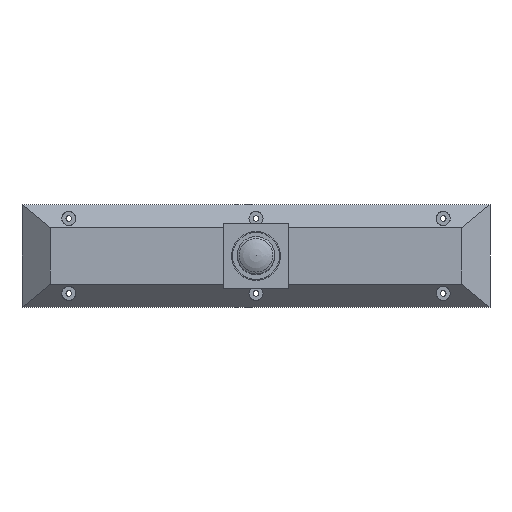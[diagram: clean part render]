
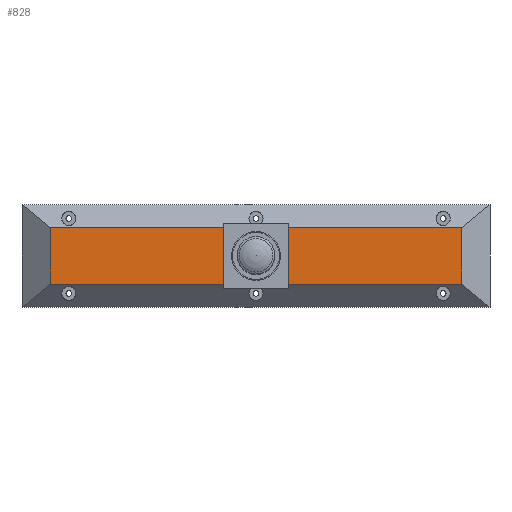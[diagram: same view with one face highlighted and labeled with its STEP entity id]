
A CAD part, top view. The second image highlights one B-rep face of the part: STEP entity #828.
In plain terms, the highlighted planar face has unit normal (0, 0, 1).
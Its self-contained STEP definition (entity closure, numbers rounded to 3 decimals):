
#32 = VERTEX_POINT('',#33);
#33 = CARTESIAN_POINT('',(440.,60.,50.));
#38 = EDGE_CURVE('',#39,#32,#41,.T.);
#39 = VERTEX_POINT('',#40);
#40 = CARTESIAN_POINT('',(440.,-60.,50.));
#41 = LINE('',#42,#43);
#42 = CARTESIAN_POINT('',(440.,-60.,50.));
#43 = VECTOR('',#44,1.);
#44 = DIRECTION('',(0.,1.,0.));
#262 = VERTEX_POINT('',#263);
#263 = CARTESIAN_POINT('',(-440.,60.,50.));
#268 = EDGE_CURVE('',#32,#262,#269,.T.);
#269 = LINE('',#270,#271);
#270 = CARTESIAN_POINT('',(440.,60.,50.));
#271 = VECTOR('',#272,1.);
#272 = DIRECTION('',(-1.,0.,0.));
#828 = ADVANCED_FACE('',(#829),#847,.F.);
#829 = FACE_BOUND('',#830,.T.);
#830 = EDGE_LOOP('',(#831,#839,#840,#841));
#831 = ORIENTED_EDGE('',*,*,#832,.T.);
#832 = EDGE_CURVE('',#833,#39,#835,.T.);
#833 = VERTEX_POINT('',#834);
#834 = CARTESIAN_POINT('',(-440.,-60.,50.));
#835 = LINE('',#836,#837);
#836 = CARTESIAN_POINT('',(-440.,-60.,50.));
#837 = VECTOR('',#838,1.);
#838 = DIRECTION('',(1.,0.,0.));
#839 = ORIENTED_EDGE('',*,*,#38,.T.);
#840 = ORIENTED_EDGE('',*,*,#268,.T.);
#841 = ORIENTED_EDGE('',*,*,#842,.T.);
#842 = EDGE_CURVE('',#262,#833,#843,.T.);
#843 = LINE('',#844,#845);
#844 = CARTESIAN_POINT('',(-440.,60.,50.));
#845 = VECTOR('',#846,1.);
#846 = DIRECTION('',(0.,-1.,0.));
#847 = PLANE('',#848);
#848 = AXIS2_PLACEMENT_3D('',#849,#850,#851);
#849 = CARTESIAN_POINT('',(-440.,-60.,50.));
#850 = DIRECTION('',(0.,0.,-1.));
#851 = DIRECTION('',(0.991,0.135,0.));
